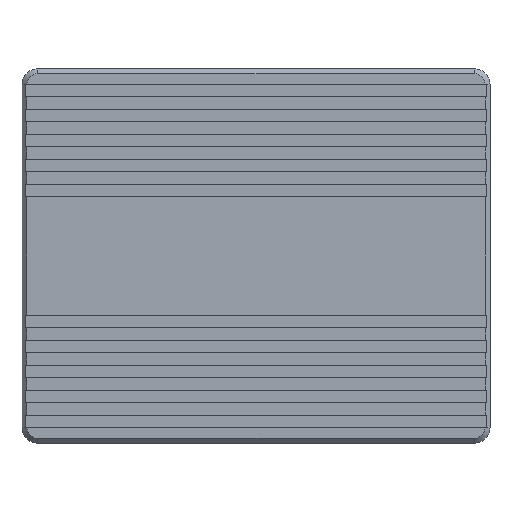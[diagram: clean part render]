
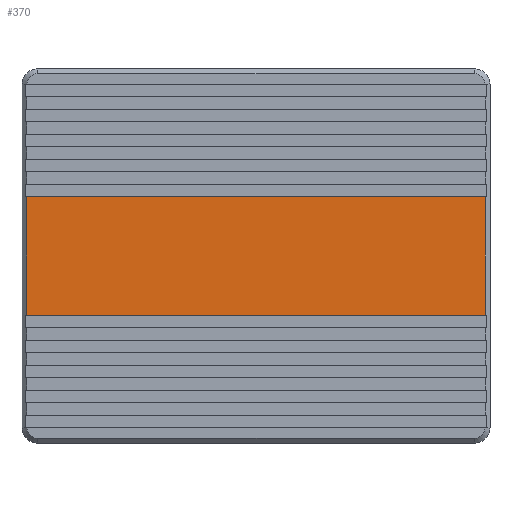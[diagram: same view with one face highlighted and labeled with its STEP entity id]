
A CAD part, front view. The second image highlights one B-rep face of the part: STEP entity #370.
In plain terms, the highlighted planar face has unit normal (0, -1, 0).
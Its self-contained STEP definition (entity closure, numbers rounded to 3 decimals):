
#370=ADVANCED_FACE('',(#705),#580,.F.);
#580=PLANE('',#4027);
#705=FACE_OUTER_BOUND('',#902,.T.);
#902=EDGE_LOOP('',(#1145,#1146,#1147,#1148));
#1145=ORIENTED_EDGE('',*,*,#2638,.T.);
#1146=ORIENTED_EDGE('',*,*,#2639,.F.);
#1147=ORIENTED_EDGE('',*,*,#2640,.T.);
#1148=ORIENTED_EDGE('',*,*,#2641,.T.);
#2271=VERTEX_POINT('',#5550);
#2272=VERTEX_POINT('',#5551);
#2273=VERTEX_POINT('',#5553);
#2274=VERTEX_POINT('',#5555);
#2638=EDGE_CURVE('',#2271,#2272,#3199,.T.);
#2639=EDGE_CURVE('',#2273,#2272,#3200,.T.);
#2640=EDGE_CURVE('',#2273,#2274,#3201,.T.);
#2641=EDGE_CURVE('',#2274,#2271,#3202,.T.);
#3199=LINE('',#5549,#3618);
#3200=LINE('',#5552,#3619);
#3201=LINE('',#5554,#3620);
#3202=LINE('',#5556,#3621);
#3618=VECTOR('',#4408,1.);
#3619=VECTOR('',#4409,1.);
#3620=VECTOR('',#4410,1.);
#3621=VECTOR('',#4411,1.);
#4027=AXIS2_PLACEMENT_3D('',#5557,#4412,#4413);
#4408=DIRECTION('',(0.,0.,1.));
#4409=DIRECTION('',(1.,0.,0.));
#4410=DIRECTION('',(0.,0.,-1.));
#4411=DIRECTION('',(1.,0.,0.));
#4412=DIRECTION('',(0.,1.,0.));
#4413=DIRECTION('',(-1.,0.,0.));
#5549=CARTESIAN_POINT('',(7.296,-46.373,-9.5));
#5550=CARTESIAN_POINT('',(7.296,-46.373,-9.5));
#5551=CARTESIAN_POINT('',(7.296,-46.373,9.5));
#5552=CARTESIAN_POINT('',(-66.104,-46.373,9.5));
#5553=CARTESIAN_POINT('',(-66.104,-46.373,9.5));
#5554=CARTESIAN_POINT('',(-66.104,-46.373,9.5));
#5555=CARTESIAN_POINT('',(-66.104,-46.373,-9.5));
#5556=CARTESIAN_POINT('',(-66.104,-46.373,-9.5));
#5557=CARTESIAN_POINT('',(-29.404,-46.373,0.));
